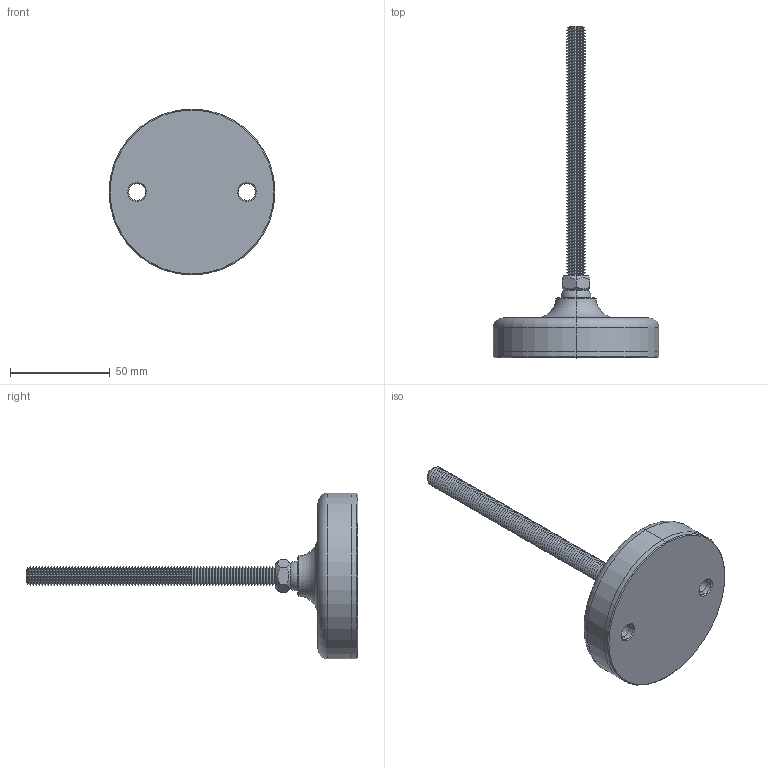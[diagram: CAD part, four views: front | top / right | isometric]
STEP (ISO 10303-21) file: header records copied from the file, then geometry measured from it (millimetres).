
FILE_DESCRIPTION (( 'STEP AP203' ), '1' );
FILE_NAME ('Default.step', '2019-11-28T22:22:08', ( '' ), ( '' ), 'SwSTEP 2.0', 'SolidWorks 2017', '' );
FILE_SCHEMA (( 'CONFIG_CONTROL_DESIGN' ));
Length unit declared in the file: millimetre
Products named in the file (4): Part1; Part2; Default; Part3
Assembly tree (3 placements, depth 2):
  Default
    Part1
    Part2
    Part3
Bounding box: 83 x 166 x 83 mm (x, y, z)
Volume: 118564.1 mm3; surface area: 35162.5 mm2
Topology: 3 solids, 3 shells, 384 faces, 783 edges, 405 vertices
Faces by surface type: cone 350, plane 14, cylinder 12, sphere 4, torus 4
Entity records: 10258 total; most frequent: DIRECTION 1936, CARTESIAN_POINT 1708, ORIENTED_EDGE 1548, AXIS2_PLACEMENT_3D 784, EDGE_CURVE 774, VERTEX_POINT 400, EDGE_LOOP 396, CIRCLE 394
